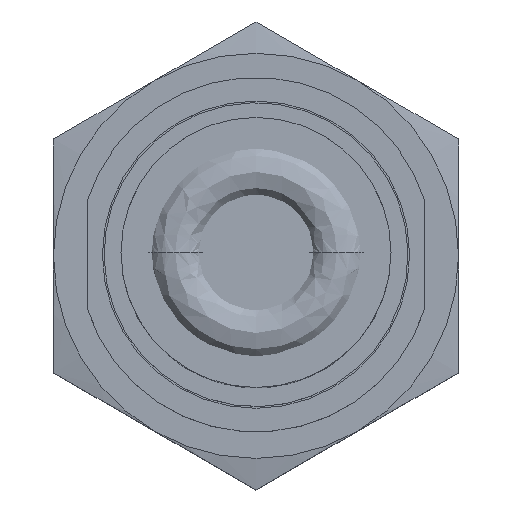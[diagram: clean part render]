
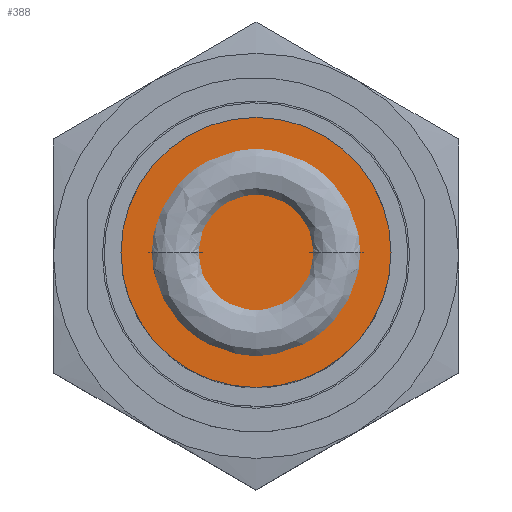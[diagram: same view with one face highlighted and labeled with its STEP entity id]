
A CAD part, top view. The second image highlights one B-rep face of the part: STEP entity #388.
In plain terms, the highlighted planar face has unit normal (0, 0, 1).
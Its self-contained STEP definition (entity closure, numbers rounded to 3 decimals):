
#108 = CARTESIAN_POINT ( 'NONE',  ( 4., 0., 0. ) ) ;
#256 = VERTEX_POINT ( 'NONE', #2909 ) ;
#388 = ADVANCED_FACE ( 'NONE', ( #3592 ), #5364, .T. ) ;
#645 = VERTEX_POINT ( 'NONE', #108 ) ;
#946 = CARTESIAN_POINT ( 'NONE',  ( 0., 0., 0. ) ) ;
#2377 = EDGE_CURVE ( 'NONE', #645, #256, #5093, .T. ) ;
#2600 = CARTESIAN_POINT ( 'NONE',  ( 0., 0., 0. ) ) ;
#2909 = CARTESIAN_POINT ( 'NONE',  ( -4., 0., 0. ) ) ;
#3486 = CARTESIAN_POINT ( 'NONE',  ( 0., 0., 0. ) ) ;
#3515 = EDGE_CURVE ( 'NONE', #256, #645, #4072, .T. ) ;
#3540 = AXIS2_PLACEMENT_3D ( 'NONE', #3486, #4036, #4483 ) ;
#3592 = FACE_OUTER_BOUND ( 'NONE', #5595, .T. ) ;
#3777 = AXIS2_PLACEMENT_3D ( 'NONE', #946, #6389, #5451 ) ;
#4036 = DIRECTION ( 'NONE',  ( 0., 0., 1. ) ) ;
#4072 = CIRCLE ( 'NONE', #3540, 4. ) ;
#4169 = AXIS2_PLACEMENT_3D ( 'NONE', #2600, #6122, #4612 ) ;
#4483 = DIRECTION ( 'NONE',  ( 1., 0., 0. ) ) ;
#4612 = DIRECTION ( 'NONE',  ( 1., 0., 0. ) ) ;
#5093 = CIRCLE ( 'NONE', #4169, 4. ) ;
#5364 = PLANE ( 'NONE',  #3777 ) ;
#5451 = DIRECTION ( 'NONE',  ( 1., 0., 0. ) ) ;
#5595 = EDGE_LOOP ( 'NONE', ( #6233, #5842 ) ) ;
#5842 = ORIENTED_EDGE ( 'NONE', *, *, #3515, .T. ) ;
#6122 = DIRECTION ( 'NONE',  ( 0., 0., 1. ) ) ;
#6233 = ORIENTED_EDGE ( 'NONE', *, *, #2377, .T. ) ;
#6389 = DIRECTION ( 'NONE',  ( 0., 0., 1. ) ) ;
